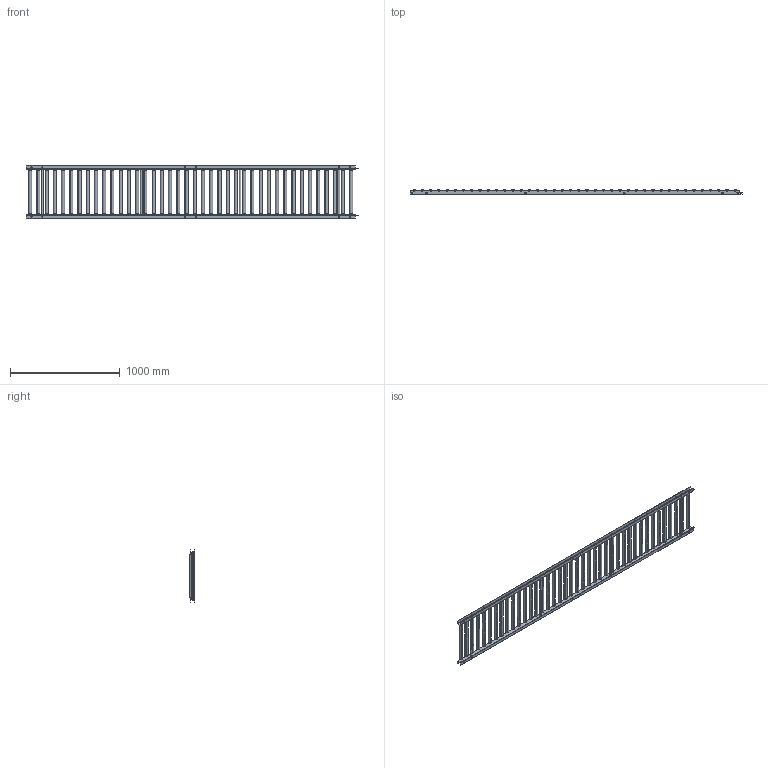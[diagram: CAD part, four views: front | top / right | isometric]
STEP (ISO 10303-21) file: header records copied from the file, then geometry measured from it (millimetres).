
FILE_DESCRIPTION (( 'STEP AP203' ), '1' );
FILE_NAME ('R-2812PL.step', '2024-02-26T06:36:43', ( '' ), ( '' ), 'SwSTEP 2.0', 'SolidWorks 2023', '' );
FILE_SCHEMA (( 'CONFIG_CONTROL_DESIGN' ));
Length unit declared in the file: millimetre
Products named in the file (1): R-2812PL
Bounding box: 3025 x 46.3 x 475 mm (x, y, z)
Volume: 11444047.3 mm3; surface area: 3987468.1 mm2
Topology: 96 solids, 96 shells, 1560 faces, 3584 edges, 2296 vertices
Faces by surface type: cylinder 752, plane 616, torus 160, cone 32
Entity records: 45347 total; most frequent: DIRECTION 8754, CARTESIAN_POINT 7425, ORIENTED_EDGE 7136, AXIS2_PLACEMENT_3D 3625, EDGE_CURVE 3568, VERTEX_POINT 2296, CIRCLE 2064, EDGE_LOOP 2040
